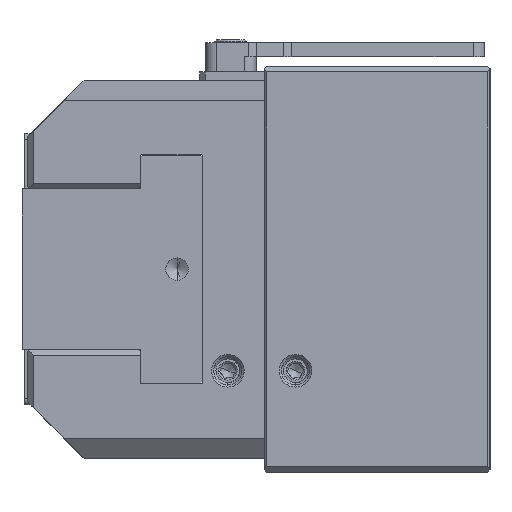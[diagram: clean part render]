
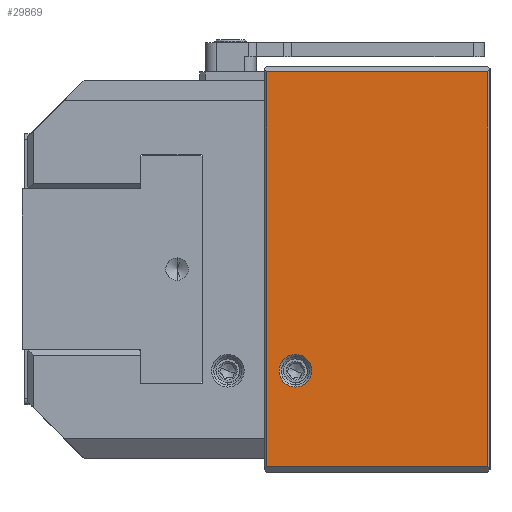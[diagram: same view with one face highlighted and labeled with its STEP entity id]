
A CAD part, left-side view. The second image highlights one B-rep face of the part: STEP entity #29869.
In plain terms, the highlighted planar face has unit normal (-1, 0, 0).
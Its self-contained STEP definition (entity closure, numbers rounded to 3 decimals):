
#2407 = CARTESIAN_POINT ( 'NONE',  ( -60., -0.4, -35. ) ) ;
#3119 = VERTEX_POINT ( 'NONE', #35411 ) ;
#3999 = CARTESIAN_POINT ( 'NONE',  ( -60., -5.5, -15.1 ) ) ;
#7815 = CARTESIAN_POINT ( 'NONE',  ( -60., -5.5, -18. ) ) ;
#8670 = AXIS2_PLACEMENT_3D ( 'NONE', #52430, #33971, #16899 ) ;
#9123 = ORIENTED_EDGE ( 'NONE', *, *, #55326, .F. ) ;
#10907 = CARTESIAN_POINT ( 'NONE',  ( -60., -0.4, -35. ) ) ;
#11487 = DIRECTION ( 'NONE',  ( 0., 0., 1. ) ) ;
#12016 = VECTOR ( 'NONE', #31752, 1000. ) ;
#12388 = ORIENTED_EDGE ( 'NONE', *, *, #35560, .T. ) ;
#13343 = CIRCLE ( 'NONE', #48606, 2.9 ) ;
#16351 = VECTOR ( 'NONE', #51877, 1000. ) ;
#16899 = DIRECTION ( 'NONE',  ( 0., 0., 1. ) ) ;
#18079 = CARTESIAN_POINT ( 'NONE',  ( -60., -40., 35. ) ) ;
#19393 = VERTEX_POINT ( 'NONE', #45418 ) ;
#20203 = FACE_BOUND ( 'NONE', #38553, .T. ) ;
#20325 = DIRECTION ( 'NONE',  ( 0., 0., -1. ) ) ;
#20922 = LINE ( 'NONE', #2407, #29214 ) ;
#21217 = EDGE_CURVE ( 'NONE', #43457, #19393, #41998, .T. ) ;
#21863 = DIRECTION ( 'NONE',  ( 0., 0., 1. ) ) ;
#22578 = VERTEX_POINT ( 'NONE', #35045 ) ;
#23534 = VERTEX_POINT ( 'NONE', #27606 ) ;
#23733 = ORIENTED_EDGE ( 'NONE', *, *, #37154, .T. ) ;
#25358 = LINE ( 'NONE', #30125, #16351 ) ;
#27261 = LINE ( 'NONE', #44366, #12016 ) ;
#27606 = CARTESIAN_POINT ( 'NONE',  ( -60., -39.6, 35. ) ) ;
#29214 = VECTOR ( 'NONE', #20325, 1000. ) ;
#29496 = FACE_OUTER_BOUND ( 'NONE', #39121, .T. ) ;
#29869 = ADVANCED_FACE ( 'NONE', ( #20203, #29496 ), #48292, .T. ) ;
#30125 = CARTESIAN_POINT ( 'NONE',  ( -60., -39.6, 35. ) ) ;
#31752 = DIRECTION ( 'NONE',  ( 0., 1., 0. ) ) ;
#33253 = ORIENTED_EDGE ( 'NONE', *, *, #21217, .F. ) ;
#33971 = DIRECTION ( 'NONE',  ( -1., 0., 0. ) ) ;
#34204 = CARTESIAN_POINT ( 'NONE',  ( -60., -5.5, -18. ) ) ;
#35045 = CARTESIAN_POINT ( 'NONE',  ( -60., -39.6, -35. ) ) ;
#35411 = CARTESIAN_POINT ( 'NONE',  ( -60., -0.4, 35. ) ) ;
#35560 = EDGE_CURVE ( 'NONE', #22578, #23534, #25358, .T. ) ;
#36251 = ORIENTED_EDGE ( 'NONE', *, *, #49317, .F. ) ;
#37154 = EDGE_CURVE ( 'NONE', #23534, #3119, #58956, .T. ) ;
#38553 = EDGE_LOOP ( 'NONE', ( #33253, #36251 ) ) ;
#39121 = EDGE_LOOP ( 'NONE', ( #23733, #39377, #9123, #12388 ) ) ;
#39377 = ORIENTED_EDGE ( 'NONE', *, *, #41084, .T. ) ;
#41062 = DIRECTION ( 'NONE',  ( 0., 1., 0. ) ) ;
#41084 = EDGE_CURVE ( 'NONE', #3119, #48205, #20922, .T. ) ;
#41998 = CIRCLE ( 'NONE', #56285, 2.9 ) ;
#43457 = VERTEX_POINT ( 'NONE', #3999 ) ;
#43732 = DIRECTION ( 'NONE',  ( -1., 0., 0. ) ) ;
#44366 = CARTESIAN_POINT ( 'NONE',  ( -60., -40., -35. ) ) ;
#45418 = CARTESIAN_POINT ( 'NONE',  ( -60., -5.5, -20.9 ) ) ;
#48205 = VERTEX_POINT ( 'NONE', #10907 ) ;
#48292 = PLANE ( 'NONE',  #8670 ) ;
#48606 = AXIS2_PLACEMENT_3D ( 'NONE', #7815, #57965, #21863 ) ;
#49317 = EDGE_CURVE ( 'NONE', #19393, #43457, #13343, .T. ) ;
#51877 = DIRECTION ( 'NONE',  ( 0., 0., 1. ) ) ;
#52430 = CARTESIAN_POINT ( 'NONE',  ( -60., -40., 35. ) ) ;
#55326 = EDGE_CURVE ( 'NONE', #22578, #48205, #27261, .T. ) ;
#56285 = AXIS2_PLACEMENT_3D ( 'NONE', #34204, #43732, #11487 ) ;
#57334 = VECTOR ( 'NONE', #41062, 1000. ) ;
#57965 = DIRECTION ( 'NONE',  ( -1., 0., 0. ) ) ;
#58956 = LINE ( 'NONE', #18079, #57334 ) ;
